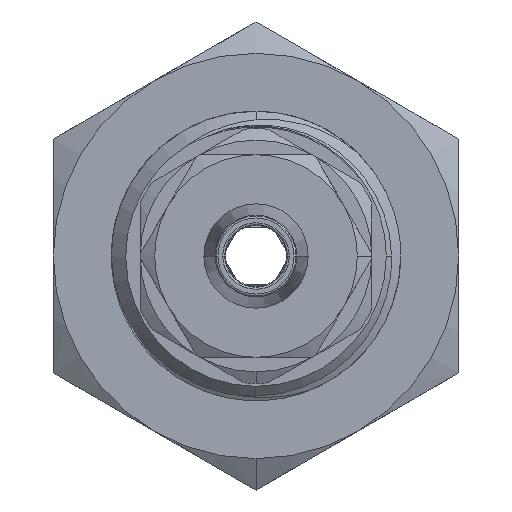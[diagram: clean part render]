
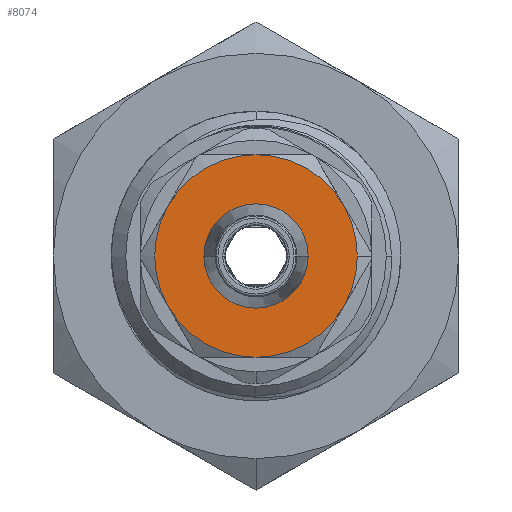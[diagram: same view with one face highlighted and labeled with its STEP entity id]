
A CAD part, front view. The second image highlights one B-rep face of the part: STEP entity #8074.
In plain terms, the highlighted planar face has unit normal (0, -1, 0).
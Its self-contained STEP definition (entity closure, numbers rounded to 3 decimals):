
#271 = EDGE_CURVE ( 'NONE', #3198, #1426, #4441, .T. ) ;
#341 = CARTESIAN_POINT ( 'NONE',  ( 0., -13.2, 0. ) ) ;
#395 = DIRECTION ( 'NONE',  ( 0., -1., 0. ) ) ;
#731 = AXIS2_PLACEMENT_3D ( 'NONE', #341, #1662, #6899 ) ;
#745 = VERTEX_POINT ( 'NONE', #2232 ) ;
#1029 = DIRECTION ( 'NONE',  ( 0., -1., 0. ) ) ;
#1038 = CARTESIAN_POINT ( 'NONE',  ( 3.031, -13.2, -1.75 ) ) ;
#1236 = DIRECTION ( 'NONE',  ( 0., -1., 0. ) ) ;
#1238 = DIRECTION ( 'NONE',  ( 0., -1., 0. ) ) ;
#1276 = EDGE_CURVE ( 'NONE', #745, #1898, #3335, .T. ) ;
#1338 = AXIS2_PLACEMENT_3D ( 'NONE', #4815, #5612, #7413 ) ;
#1426 = VERTEX_POINT ( 'NONE', #2390 ) ;
#1516 = AXIS2_PLACEMENT_3D ( 'NONE', #5440, #7406, #7973 ) ;
#1584 = DIRECTION ( 'NONE',  ( 0.866, 0., 0.5 ) ) ;
#1662 = DIRECTION ( 'NONE',  ( 0., 1., 0. ) ) ;
#1714 = AXIS2_PLACEMENT_3D ( 'NONE', #5574, #1029, #1584 ) ;
#1717 = DIRECTION ( 'NONE',  ( 0., 0., 1. ) ) ;
#1806 = DIRECTION ( 'NONE',  ( 0., 0., -1. ) ) ;
#1881 = EDGE_CURVE ( 'NONE', #3887, #5380, #7294, .T. ) ;
#1898 = VERTEX_POINT ( 'NONE', #7253 ) ;
#2099 = PLANE ( 'NONE',  #1516 ) ;
#2104 = EDGE_CURVE ( 'NONE', #8165, #3198, #3548, .T. ) ;
#2172 = ORIENTED_EDGE ( 'NONE', *, *, #1881, .T. ) ;
#2232 = CARTESIAN_POINT ( 'NONE',  ( -1.65, -13.2, 0. ) ) ;
#2241 = DIRECTION ( 'NONE',  ( 0., -1., 0. ) ) ;
#2260 = DIRECTION ( 'NONE',  ( 0., -1., 0. ) ) ;
#2277 = CARTESIAN_POINT ( 'NONE',  ( 0., -13.2, 0. ) ) ;
#2390 = CARTESIAN_POINT ( 'NONE',  ( -3.031, -13.2, -1.75 ) ) ;
#2406 = ORIENTED_EDGE ( 'NONE', *, *, #3072, .T. ) ;
#2464 = ORIENTED_EDGE ( 'NONE', *, *, #4591, .T. ) ;
#2473 = EDGE_LOOP ( 'NONE', ( #6356, #2406 ) ) ;
#2665 = CARTESIAN_POINT ( 'NONE',  ( 0., -13.2, 0. ) ) ;
#2679 = VERTEX_POINT ( 'NONE', #6740 ) ;
#3072 = EDGE_CURVE ( 'NONE', #1898, #745, #5866, .T. ) ;
#3180 = CIRCLE ( 'NONE', #7978, 3.5 ) ;
#3198 = VERTEX_POINT ( 'NONE', #8400 ) ;
#3321 = AXIS2_PLACEMENT_3D ( 'NONE', #3788, #1236, #1806 ) ;
#3335 = CIRCLE ( 'NONE', #731, 1.65 ) ;
#3510 = CARTESIAN_POINT ( 'NONE',  ( 0., -13.2, 0. ) ) ;
#3548 = CIRCLE ( 'NONE', #5738, 3.5 ) ;
#3656 = CARTESIAN_POINT ( 'NONE',  ( 0., -13.2, 0. ) ) ;
#3788 = CARTESIAN_POINT ( 'NONE',  ( 0., -13.2, 0. ) ) ;
#3887 = VERTEX_POINT ( 'NONE', #1038 ) ;
#3908 = EDGE_CURVE ( 'NONE', #5380, #2679, #5845, .T. ) ;
#4261 = EDGE_CURVE ( 'NONE', #2679, #8165, #4875, .T. ) ;
#4269 = CARTESIAN_POINT ( 'NONE',  ( 0., -13.2, 0. ) ) ;
#4292 = DIRECTION ( 'NONE',  ( -0.866, 0., -0.5 ) ) ;
#4441 = CIRCLE ( 'NONE', #8404, 3.5 ) ;
#4484 = AXIS2_PLACEMENT_3D ( 'NONE', #2277, #395, #6264 ) ;
#4591 = EDGE_CURVE ( 'NONE', #1426, #5730, #3180, .T. ) ;
#4629 = EDGE_LOOP ( 'NONE', ( #8096, #5993, #2464, #8000, #2172, #6850, #7170 ) ) ;
#4815 = CARTESIAN_POINT ( 'NONE',  ( 0., -13.2, 0. ) ) ;
#4828 = DIRECTION ( 'NONE',  ( -0.866, 0., 0.5 ) ) ;
#4847 = AXIS2_PLACEMENT_3D ( 'NONE', #2665, #1238, #5291 ) ;
#4861 = CARTESIAN_POINT ( 'NONE',  ( 0., -13.2, 3.5 ) ) ;
#4875 = CIRCLE ( 'NONE', #1714, 3.5 ) ;
#5218 = CARTESIAN_POINT ( 'NONE',  ( 0., -13.2, -3.5 ) ) ;
#5291 = DIRECTION ( 'NONE',  ( 0.866, 0., -0.5 ) ) ;
#5380 = VERTEX_POINT ( 'NONE', #6733 ) ;
#5403 = FACE_BOUND ( 'NONE', #2473, .T. ) ;
#5440 = CARTESIAN_POINT ( 'NONE',  ( 1.55, -13.2, 0. ) ) ;
#5574 = CARTESIAN_POINT ( 'NONE',  ( 0., -13.2, 0. ) ) ;
#5612 = DIRECTION ( 'NONE',  ( 0., 1., 0. ) ) ;
#5730 = VERTEX_POINT ( 'NONE', #5218 ) ;
#5738 = AXIS2_PLACEMENT_3D ( 'NONE', #3656, #6260, #1717 ) ;
#5845 = CIRCLE ( 'NONE', #4484, 3.5 ) ;
#5866 = CIRCLE ( 'NONE', #1338, 1.65 ) ;
#5993 = ORIENTED_EDGE ( 'NONE', *, *, #271, .T. ) ;
#6260 = DIRECTION ( 'NONE',  ( 0., -1., 0. ) ) ;
#6264 = DIRECTION ( 'NONE',  ( 0.866, 0., -0.5 ) ) ;
#6356 = ORIENTED_EDGE ( 'NONE', *, *, #1276, .T. ) ;
#6733 = CARTESIAN_POINT ( 'NONE',  ( 3.5, -13.2, 0. ) ) ;
#6740 = CARTESIAN_POINT ( 'NONE',  ( 3.031, -13.2, 1.75 ) ) ;
#6850 = ORIENTED_EDGE ( 'NONE', *, *, #3908, .T. ) ;
#6899 = DIRECTION ( 'NONE',  ( -1., 0., 0. ) ) ;
#7017 = CIRCLE ( 'NONE', #3321, 3.5 ) ;
#7170 = ORIENTED_EDGE ( 'NONE', *, *, #4261, .T. ) ;
#7253 = CARTESIAN_POINT ( 'NONE',  ( 1.65, -13.2, 0. ) ) ;
#7294 = CIRCLE ( 'NONE', #4847, 3.5 ) ;
#7325 = FACE_OUTER_BOUND ( 'NONE', #4629, .T. ) ;
#7406 = DIRECTION ( 'NONE',  ( 0., 1., 0. ) ) ;
#7413 = DIRECTION ( 'NONE',  ( 1., 0., 0. ) ) ;
#7566 = EDGE_CURVE ( 'NONE', #5730, #3887, #7017, .T. ) ;
#7973 = DIRECTION ( 'NONE',  ( 1., 0., 0. ) ) ;
#7978 = AXIS2_PLACEMENT_3D ( 'NONE', #3510, #2260, #4292 ) ;
#8000 = ORIENTED_EDGE ( 'NONE', *, *, #7566, .T. ) ;
#8074 = ADVANCED_FACE ( 'NONE', ( #5403, #7325 ), #2099, .F. ) ;
#8096 = ORIENTED_EDGE ( 'NONE', *, *, #2104, .T. ) ;
#8165 = VERTEX_POINT ( 'NONE', #4861 ) ;
#8400 = CARTESIAN_POINT ( 'NONE',  ( -3.031, -13.2, 1.75 ) ) ;
#8404 = AXIS2_PLACEMENT_3D ( 'NONE', #4269, #2241, #4828 ) ;
